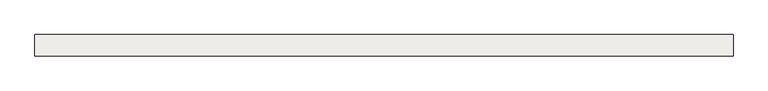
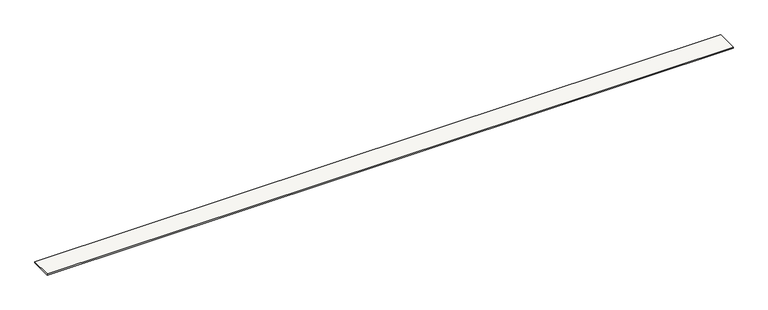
"""IFC4 building model written with IfcOpenShell, lengths in millimetres: slab geometry, Sol-02 - Tablette bois 2cm."""

from ifc_helpers import new_model, si_unit, origin, origin_with_axes, place, context, project, spatial, polyline, outline, extrude, source, transform, mapped, element, save


def slab_f8e8bf84(model_context):
    return source(origin(), model_context, "Body", "SweptSolid", [
        extrude(outline(polyline([(48206.9999476, 9.6914909), (38507.4999738, 9.6914909), (38507.4999738, 309.0), (48206.9999476, 309.0), (48206.9999476, 9.6914909)])), origin_with_axes(), (0.0, 0.0, 1.0), 20.0),
    ])


if __name__ == "__main__":
    model = new_model("IFC4")
    model_context = context("Model", 3, world=origin())
    ifc_project = project(units=[si_unit("LENGTHUNIT", "METRE", prefix="MILLI")], contexts=[model_context])
    site = spatial("IfcSite", under=ifc_project)
    building = spatial("IfcBuilding", under=site)
    placement = place(None, origin())
    slab_shape = slab_f8e8bf84(model_context)
    element("IfcSlab", 1, ObjectType="Sol-02 - Tablette bois 2cm", at=placement, inside=building, context=model_context, shape_type="MappedRepresentation", body=[
        mapped(slab_shape, transform((0.0, 0.0, 0.0), x_axis=(1.0, 0.0, 0.0), y_axis=(0.0, 1.0, 0.0), z_axis=(0.0, 0.0, 1.0))),
    ])
    save(model, "model.ifc")
